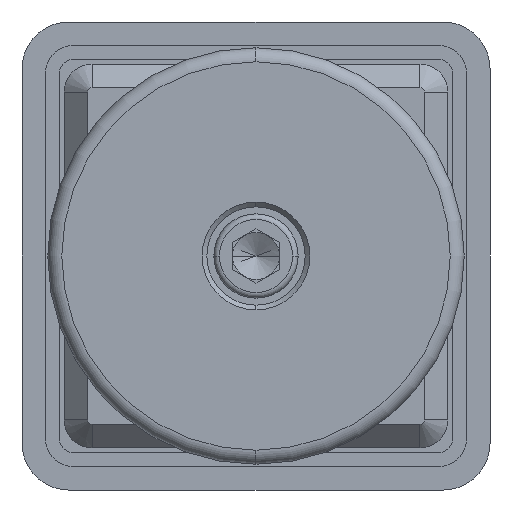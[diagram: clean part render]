
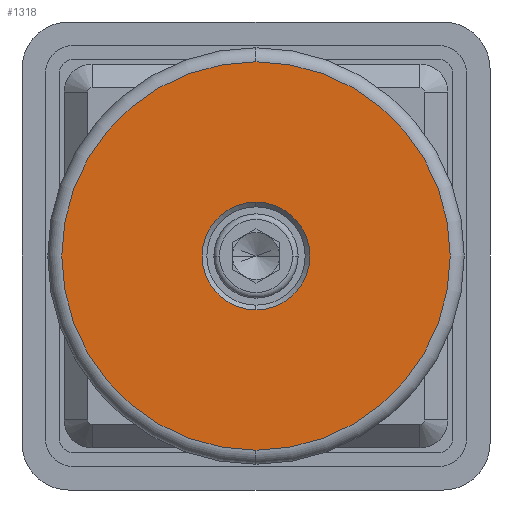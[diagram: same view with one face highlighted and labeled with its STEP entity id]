
A CAD part, front view. The second image highlights one B-rep face of the part: STEP entity #1318.
In plain terms, the highlighted planar face has unit normal (0, -1, 0).
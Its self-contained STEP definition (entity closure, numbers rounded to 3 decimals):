
#467 = VERTEX_POINT ( 'NONE', #5933 ) ;
#502 = DIRECTION ( 'NONE',  ( 0., 0., -1. ) ) ;
#727 = CARTESIAN_POINT ( 'NONE',  ( 0., -27.2, 0. ) ) ;
#745 = VERTEX_POINT ( 'NONE', #5186 ) ;
#843 = CARTESIAN_POINT ( 'NONE',  ( 0., -27.2, 0. ) ) ;
#1130 = CARTESIAN_POINT ( 'NONE',  ( 44.5, -27.2, 0. ) ) ;
#1199 = CARTESIAN_POINT ( 'NONE',  ( 0., -27.2, 0. ) ) ;
#1318 = ADVANCED_FACE ( 'NONE', ( #2944, #2444 ), #3195, .T. ) ;
#1383 = DIRECTION ( 'NONE',  ( 0., -1., 0. ) ) ;
#1537 = CIRCLE ( 'NONE', #3241, 11.5 ) ;
#1635 = CIRCLE ( 'NONE', #3357, 41.5 ) ;
#2140 = DIRECTION ( 'NONE',  ( 0., 0., -1. ) ) ;
#2203 = DIRECTION ( 'NONE',  ( 0., 0., -1. ) ) ;
#2210 = DIRECTION ( 'NONE',  ( 0., 1., 0. ) ) ;
#2259 = DIRECTION ( 'NONE',  ( 0., -1., 0. ) ) ;
#2374 = DIRECTION ( 'NONE',  ( 0., 1., 0. ) ) ;
#2399 = ORIENTED_EDGE ( 'NONE', *, *, #5774, .T. ) ;
#2444 = FACE_OUTER_BOUND ( 'NONE', #5982, .T. ) ;
#2633 = DIRECTION ( 'NONE',  ( 0., -1., 0. ) ) ;
#2748 = VERTEX_POINT ( 'NONE', #5514 ) ;
#2770 = DIRECTION ( 'NONE',  ( 0., 0., -1. ) ) ;
#2944 = FACE_BOUND ( 'NONE', #6097, .T. ) ;
#2980 = ORIENTED_EDGE ( 'NONE', *, *, #6269, .T. ) ;
#3195 = PLANE ( 'NONE',  #3244 ) ;
#3241 = AXIS2_PLACEMENT_3D ( 'NONE', #843, #2374, #502 ) ;
#3244 = AXIS2_PLACEMENT_3D ( 'NONE', #1130, #2633, #2203 ) ;
#3261 = CARTESIAN_POINT ( 'NONE',  ( 0., -27.2, 0. ) ) ;
#3357 = AXIS2_PLACEMENT_3D ( 'NONE', #3261, #1383, #3422 ) ;
#3422 = DIRECTION ( 'NONE',  ( 0., 0., -1. ) ) ;
#3750 = ORIENTED_EDGE ( 'NONE', *, *, #5779, .T. ) ;
#3764 = CIRCLE ( 'NONE', #5259, 11.5 ) ;
#3870 = ORIENTED_EDGE ( 'NONE', *, *, #5976, .T. ) ;
#4001 = AXIS2_PLACEMENT_3D ( 'NONE', #727, #2259, #2770 ) ;
#4714 = CARTESIAN_POINT ( 'NONE',  ( 0., -27.2, -11.5 ) ) ;
#5186 = CARTESIAN_POINT ( 'NONE',  ( 0., -27.2, 11.5 ) ) ;
#5259 = AXIS2_PLACEMENT_3D ( 'NONE', #1199, #2210, #2140 ) ;
#5267 = CIRCLE ( 'NONE', #4001, 41.5 ) ;
#5514 = CARTESIAN_POINT ( 'NONE',  ( 0., -27.2, -41.5 ) ) ;
#5774 = EDGE_CURVE ( 'NONE', #467, #2748, #5267, .T. ) ;
#5779 = EDGE_CURVE ( 'NONE', #2748, #467, #1635, .T. ) ;
#5933 = CARTESIAN_POINT ( 'NONE',  ( 0., -27.2, 41.5 ) ) ;
#5976 = EDGE_CURVE ( 'NONE', #6289, #745, #1537, .T. ) ;
#5982 = EDGE_LOOP ( 'NONE', ( #3750, #2399 ) ) ;
#6097 = EDGE_LOOP ( 'NONE', ( #3870, #2980 ) ) ;
#6269 = EDGE_CURVE ( 'NONE', #745, #6289, #3764, .T. ) ;
#6289 = VERTEX_POINT ( 'NONE', #4714 ) ;
